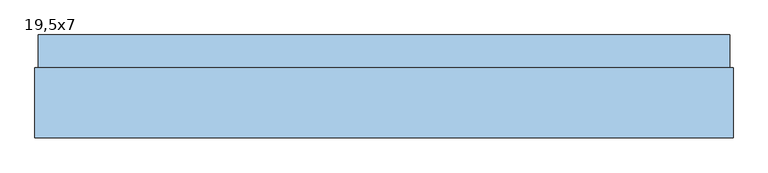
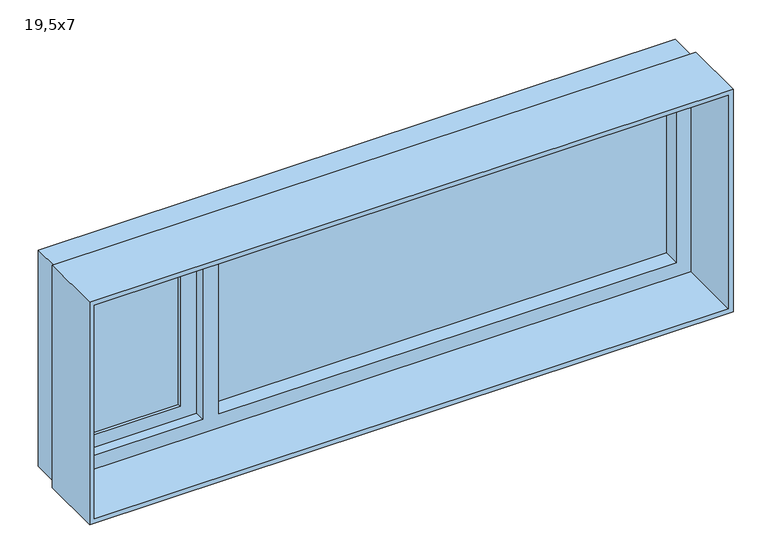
"""IFC4 building model written with IfcOpenShell, lengths in millimetres: window geometry, Vindu 2 felt med åpning side : 19,5x7."""

from ifc_helpers import new_model, si_unit, frame, origin, place, context, project, spatial, polyline, outline, extrude, source, transform, mapped, element, save


def window_19_5x7_a99c75e9(model_context):
    return source(origin(), model_context, "Body", "SweptSolid", [
        extrude(outline(polyline([(-517.3982693, 95.0), (882.6017307, 95.0), (882.6017307, 75.0), (-517.3982693, 75.0), (-517.3982693, 95.0)])), frame((0.0, 0.0, 860.0), z_axis=(0.0, 0.0, 1.0), x_axis=(1.0, 0.0, 0.0)), (0.0, 0.0, 1.0), 600.0),
        extrude(outline(polyline([(1460.0, -567.3982693), (1460.0, -967.3982693), (860.0, -967.3982693), (860.0, -567.3982693), (1460.0, -567.3982693)]), holes=[polyline([(900.0, -927.3982693), (1420.0, -927.3982693), (1420.0, -617.3982693), (900.0, -617.3982693), (900.0, -927.3982693)])]), frame((0.0, 55.0, 0.0), z_axis=(0.0, 1.0, 0.0), x_axis=(0.0, 0.0, 1.0)), (0.0, 0.0, 1.0), 40.0),
        extrude(outline(polyline([(800.0, 942.6017307), (1520.0, 942.6017307), (1520.0, -1027.3982693), (800.0, -1027.3982693), (800.0, 942.6017307)]), holes=[polyline([(815.0, 927.6017307), (815.0, -1012.3982693), (1505.0, -1012.3982693), (1505.0, 927.6017307), (815.0, 927.6017307)])]), frame((0.0, -175.0, 0.0), z_axis=(0.0, 1.0, 0.0), x_axis=(0.0, 0.0, 1.0)), (0.0, 0.0, 1.0), 198.0),
        extrude(outline(polyline([(-927.3982693, 85.0), (-617.3982693, 85.0), (-617.3982693, 65.0), (-927.3982693, 65.0), (-927.3982693, 85.0)])), frame((0.0, 0.0, 900.0), z_axis=(0.0, 0.0, 1.0), x_axis=(1.0, 0.0, 0.0)), (0.0, 0.0, 1.0), 520.0),
        extrude(outline(polyline([(1510.0, -1017.3982693), (810.0, -1017.3982693), (810.0, 932.6017307), (1510.0, 932.6017307), (1510.0, -1017.3982693)]), holes=[polyline([(1460.0, -567.3982693), (860.0, -567.3982693), (860.0, -967.3982693), (1460.0, -967.3982693), (1460.0, -567.3982693)]), polyline([(1460.0, -517.3982693), (1460.0, 882.6017307), (860.0, 882.6017307), (860.0, -517.3982693), (1460.0, -517.3982693)])]), frame((0.0, 23.0, 0.0), z_axis=(0.0, 1.0, 0.0), x_axis=(0.0, 0.0, 1.0)), (0.0, 0.0, 1.0), 92.0),
    ])


if __name__ == "__main__":
    model = new_model("IFC4")
    model_context = context("Model", 3, world=origin())
    ifc_project = project(units=[si_unit("LENGTHUNIT", "METRE", prefix="MILLI")], contexts=[model_context])
    site = spatial("IfcSite", under=ifc_project)
    building = spatial("IfcBuilding", under=site)
    placement = place(None, origin())
    window_19_5x7_shape = window_19_5x7_a99c75e9(model_context)
    element("IfcWindow", 1, ObjectType="Vindu 2 felt med åpning side : 19,5x7", at=placement, inside=building, context=model_context, shape_type="MappedRepresentation", body=[
        mapped(window_19_5x7_shape, transform((0.0, 0.0, 0.0), x_axis=(1.0, 0.0, 0.0), y_axis=(0.0, 1.0, 0.0), z_axis=(0.0, 0.0, 1.0))),
    ])
    save(model, "model.ifc")
